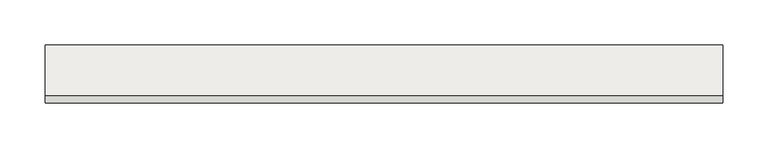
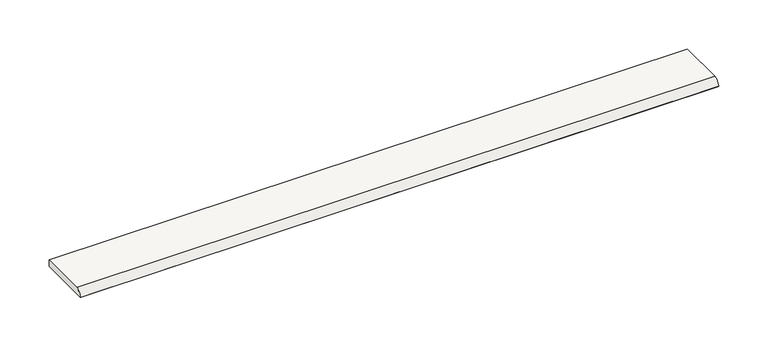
"""IFC4 building model written with IfcOpenShell, lengths in millimetres: slab geometry, ROSA GRES_013 : Pieza 013_Aqua_Marino_Liso."""

from ifc_helpers import new_model, si_unit, point, frame, frame_2d, origin, place, context, project, spatial, polyline, circle_curve, trimmed, segment, composite_curve, outline, extrude, source, transform, mapped, element, save


def slab_fd03eb48(model_context):
    return source(origin(), model_context, "Body", "SweptSolid", [
        extrude(outline(composite_curve([segment(polyline([(0.7830162, 0.0), (0.0, 0.7830162)]), True, "CONTINUOUS"), segment(trimmed(circle_curve(frame_2d((9.4741171, -1.740645)), 9.8044766), [point((0.0, 0.7830162))], [point((8.3571586, 8.0))], False, "CARTESIAN"), True, "CONTINUOUS"), segment(polyline([(8.3571586, 8.0), (64.1, 8.0), (64.1, 0.0), (0.7830162, 0.0)]), True, "CONTINUOUS")], self_intersect=False)), frame((0.0, 0.0, 0.0), z_axis=(1.0, 0.0, 0.0), x_axis=(0.0, 1.0, 0.0)), (0.0, 0.0, 1.0), 749.0384238),
    ])


if __name__ == "__main__":
    model = new_model("IFC4")
    model_context = context("Model", 3, world=origin())
    ifc_project = project(units=[si_unit("LENGTHUNIT", "METRE", prefix="MILLI")], contexts=[model_context])
    site = spatial("IfcSite", under=ifc_project)
    building = spatial("IfcBuilding", under=site)
    placement = place(None, origin())
    slab_shape = slab_fd03eb48(model_context)
    element("IfcSlab", 1, ObjectType="ROSA GRES_013 : Pieza 013_Aqua_Marino_Liso", at=placement, inside=building, context=model_context, shape_type="MappedRepresentation", body=[
        mapped(slab_shape, transform((0.0, 0.0, 0.0), x_axis=(1.0, 0.0, 0.0), y_axis=(0.0, 1.0, 0.0), z_axis=(0.0, 0.0, 1.0))),
    ])
    save(model, "model.ifc")
